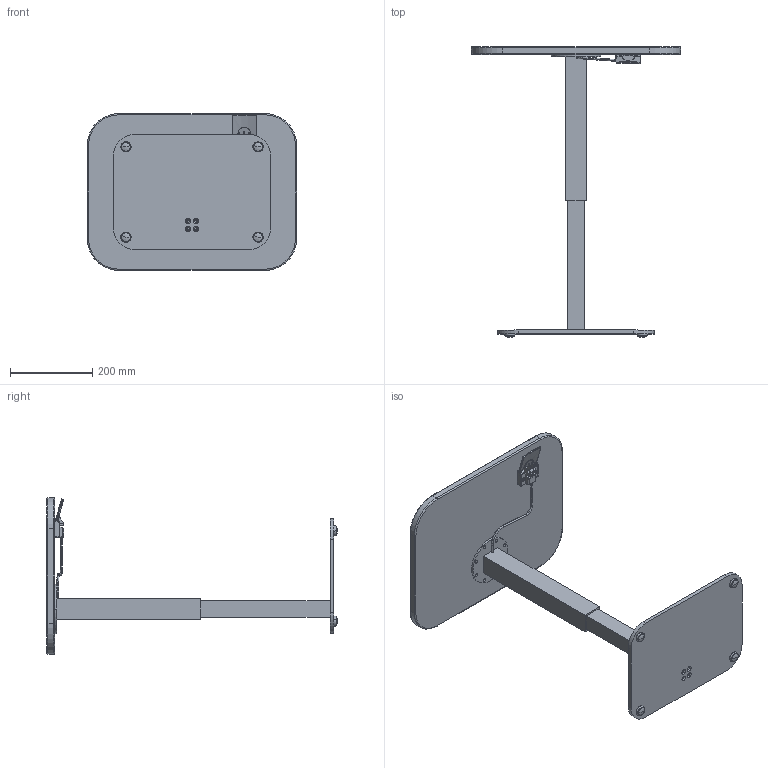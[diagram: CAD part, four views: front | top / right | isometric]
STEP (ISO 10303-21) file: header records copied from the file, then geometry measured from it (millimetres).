
FILE_DESCRIPTION (( 'STEP AP203' ), '1' );
FILE_NAME ('15x20 Rectangle Short Mount-HT.ADJ.-Highest PositionSTEP.STEP', '2024-10-30T12:30:14', ( '' ), ( '' ), 'SwSTEP 2.0', 'SolidWorks 2021', '' );
FILE_SCHEMA (( 'CONFIG_CONTROL_DESIGN' ));
Length unit declared in the file: inch
Products named in the file (13): 15x20 Rectangle Short Mount-HT.ADJ.-Highest PositionSTEP; ALG-SS; TT-15x20-EB; Paddle; TT-15x20-Core; TT-15x20-Lam; TT-15x20; Paddle Control; Proto laptop STAND_Fully Extended; Short Paddle Shift Cable_Elongated; 11X15_RECTANGLE_C_BASEPLATE_ASSY.SHORT; 11X15_RECTANGLE_C_BASEPLATE_SHORT_Center Mount; Paddle Control Base
Assembly tree (15 placements, depth 3):
  15x20 Rectangle Short Mount-HT.ADJ.-Highest PositionSTEP
    11X15_RECTANGLE_C_BASEPLATE_ASSY.SHORT
      11X15_RECTANGLE_C_BASEPLATE_SHORT_Center Mount
      ALG-SS  x4
    Proto laptop STAND_Fully Extended
    Paddle Control
      Paddle Control Base
      Paddle
    Short Paddle Shift Cable_Elongated
    TT-15x20
      TT-15x20-Core
      TT-15x20-Lam
      TT-15x20-EB
Bounding box: 508 x 705.9 x 381 mm (x, y, z)
Volume: 5990077 mm3; surface area: 1281552.4 mm2
Topology: 18 solids, 18 shells, 540 faces, 1240 edges, 725 vertices
Faces by surface type: cylinder 191, plane 159, cone 128, torus 30, bspline 16, sphere 16
Entity records: 13240 total; most frequent: CARTESIAN_POINT 2677, DIRECTION 1997, ORIENTED_EDGE 1830, EDGE_CURVE 915, AXIS2_PLACEMENT_3D 731, VERTEX_POINT 560, LINE 535, VECTOR 535
